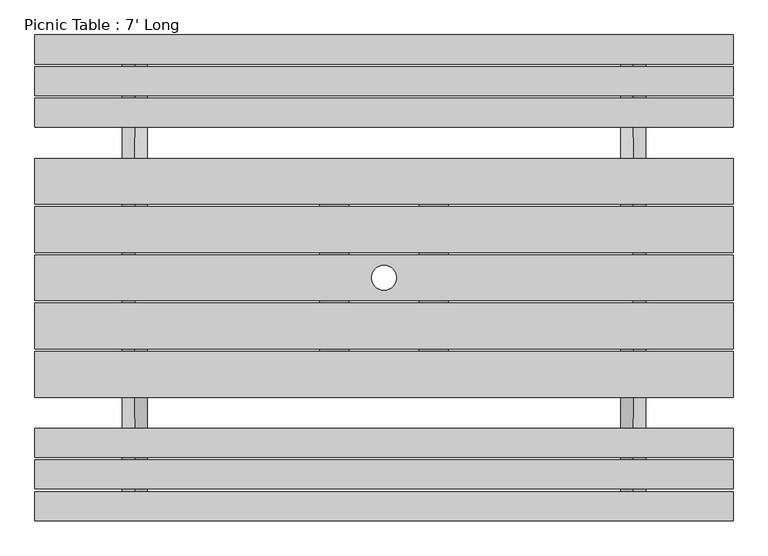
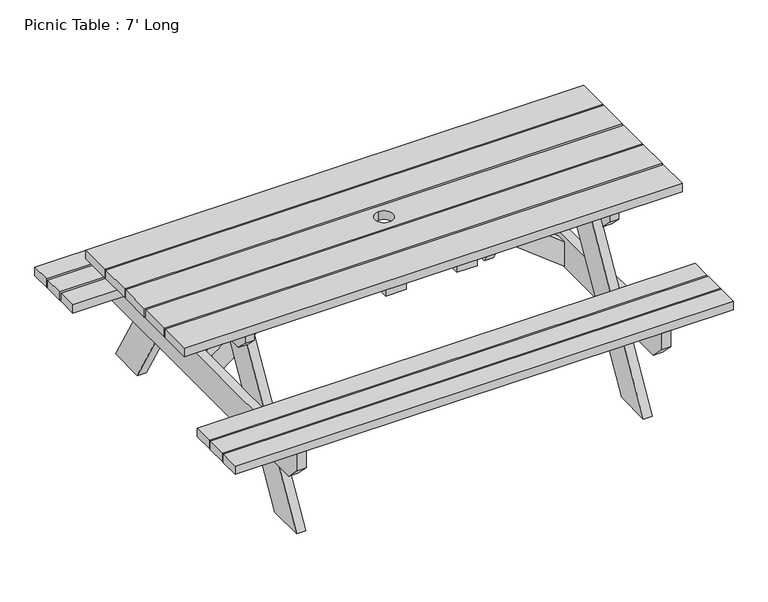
"""IFC4 building model written with IfcOpenShell, lengths in millimetres: furniture geometry, Picnic Table : 7' Long."""

import ifcopenshell
import ifcopenshell.guid

model = None  # the IFC model being written
_history = None  # IfcOwnerHistory: only IFC2X3 demands one
_inside = {}  # id of a spatial element -> (the spatial element, [elements in it])
_under = {}  # id of a project, library or spatial element -> (it, [spatial elements below it])
_declared = {}  # id of a project -> (the project, [libraries it declares])
_typed = {}  # id of a type object -> (the type object, [elements of that type])
_made_of = {}  # id of a material, layer set ... -> (it, [elements and type objects made of it])


def new_model(schema):
    """Start an empty IFC model of exactly this schema.

    Asked for "IFC4X3", IfcOpenShell would pick the latest addendum, in which some entities
    have other attributes; the version numbers below select the first issue.
    IFC2X3 requires an IfcOwnerHistory on every rooted entity: one is made here for all.
    """
    global model, _history
    if schema == "IFC4X3":
        model = ifcopenshell.file(schema_version=(4, 3, 0, 0))
    else:
        model = ifcopenshell.file(schema=schema)
    _inside.clear()
    _under.clear()
    _declared.clear()
    _typed.clear()
    _made_of.clear()
    _history = None
    if model.schema == "IFC2X3":
        org = make("IfcOrganization", Name="unknown")
        user = make(
            "IfcPersonAndOrganization",
            ThePerson=make("IfcPerson", FamilyName="unknown"),
            TheOrganization=org,
        )
        app = make(
            "IfcApplication",
            ApplicationDeveloper=org,
            Version="unknown",
            ApplicationFullName="unknown",
            ApplicationIdentifier="unknown",
        )
        _history = make(
            "IfcOwnerHistory",
            OwningUser=user,
            OwningApplication=app,
            ChangeAction="ADDED",
            CreationDate=0,
        )
    return model


def make(cls, **values):
    """One entity of the class cls with the attributes given. An attribute that is None is left unset."""
    return model.create_entity(
        cls, **{name: value for name, value in values.items() if value is not None}
    )


def rooted(cls, **values):
    """An entity with a GlobalId (a new one), such as an element, a storey or a relation."""
    return make(cls, GlobalId=ifcopenshell.guid.new(), OwnerHistory=_history, **values)


def si_unit(unit_type, name, prefix=None):
    """IfcSIUnit, for example si_unit("LENGTHUNIT", "METRE", prefix="MILLI")."""
    return make("IfcSIUnit", UnitType=unit_type, Prefix=prefix, Name=name)


def assignment(units):
    """IfcUnitAssignment: the units of a project."""
    return None if units is None else make("IfcUnitAssignment", Units=units)


def point(xyz):
    """IfcCartesianPoint."""
    return None if xyz is None else make("IfcCartesianPoint", Coordinates=xyz)


def direction(xyz):
    """IfcDirection."""
    return None if xyz is None else make("IfcDirection", DirectionRatios=xyz)


def frame(location, z_axis=None, x_axis=None):
    """IfcAxis2Placement3D, a coordinate frame: its origin and axes. An axis left out is left unset."""
    return make(
        "IfcAxis2Placement3D",
        Location=point(location),
        Axis=direction(z_axis),
        RefDirection=direction(x_axis),
    )


def frame_2d(location, x_axis=None):
    """IfcAxis2Placement2D, a coordinate frame in the plane: its origin and x axis."""
    return make(
        "IfcAxis2Placement2D", Location=point(location), RefDirection=direction(x_axis)
    )


def origin():
    """The frame at (0, 0, 0) with its axes left unset."""
    return frame((0.0, 0.0, 0.0))


def origin_2d():
    """The frame at (0, 0) in the plane with its x axis left unset."""
    return frame_2d((0.0, 0.0))


def place(relative_to, where):
    """IfcLocalPlacement: puts the frame where relative to a parent placement (None: the world)."""
    return make(
        "IfcLocalPlacement", PlacementRelTo=relative_to, RelativePlacement=where
    )


def context(
    kind, dimensions, precision=None, world=None, true_north=None, identifier=None
):
    """IfcGeometricRepresentationContext, for example the 3D "Model" context."""
    return make(
        "IfcGeometricRepresentationContext",
        ContextIdentifier=identifier,
        ContextType=kind,
        CoordinateSpaceDimension=dimensions,
        Precision=precision,
        WorldCoordinateSystem=world,
        TrueNorth=true_north,
    )


def project(units=None, contexts=None):
    """IfcProject with its units and contexts."""
    return rooted(
        "IfcProject",
        Name="project",
        RepresentationContexts=contexts,
        UnitsInContext=assignment(units),
    )


def spatial(cls, under=None, at=None, **own):
    """A site, building, storey or space (cls), placed at a placement, below another one or the project."""
    s = rooted(cls, ObjectPlacement=at, **own)
    if under is not None:
        _under.setdefault(under.id(), (under, []))[1].append(s)
    return s


def polyline(points):
    """IfcPolyline through the points."""
    return make("IfcPolyline", Points=[point(p) for p in points])


def circle_curve(where, radius):
    """IfcCircle in the frame where."""
    return make("IfcCircle", Position=where, Radius=radius)


def trimmed(basis, trim1, trim2, sense, master):
    """IfcTrimmedCurve: the piece of a basis curve between two trims."""
    return make(
        "IfcTrimmedCurve",
        BasisCurve=basis,
        Trim1=trim1,
        Trim2=trim2,
        SenseAgreement=sense,
        MasterRepresentation=master,
    )


def segment(curve, same_sense, transition):
    """IfcCompositeCurveSegment."""
    return make(
        "IfcCompositeCurveSegment",
        Transition=transition,
        SameSense=same_sense,
        ParentCurve=curve,
    )


def composite_curve(segments, self_intersect=None):
    """IfcCompositeCurve: segments joined end to end."""
    return make("IfcCompositeCurve", Segments=segments, SelfIntersect=self_intersect)


def outline(outer, holes=None, kind="AREA"):
    """IfcArbitraryClosedProfileDef: a profile drawn as a closed curve; with holes, ...WithVoids."""
    if holes is None:
        return make("IfcArbitraryClosedProfileDef", ProfileType=kind, OuterCurve=outer)
    return make(
        "IfcArbitraryProfileDefWithVoids",
        ProfileType=kind,
        OuterCurve=outer,
        InnerCurves=holes,
    )


def extrude(swept, where, along, depth):
    """IfcExtrudedAreaSolid: the profile swept, set in the frame where, extruded along a direction by depth."""
    return make(
        "IfcExtrudedAreaSolid",
        SweptArea=swept,
        Position=where,
        ExtrudedDirection=direction(along),
        Depth=depth,
    )


def shape(context_of_items, identifier, shape_type, items):
    """IfcShapeRepresentation: the items that make up one representation, for example the "Body"."""
    return make(
        "IfcShapeRepresentation",
        ContextOfItems=context_of_items,
        RepresentationIdentifier=identifier,
        RepresentationType=shape_type,
        Items=items,
    )


def source(mapping_origin, context_of_items, identifier, shape_type, items):
    """IfcRepresentationMap: a shape defined once, which mapped items show again and again."""
    return make(
        "IfcRepresentationMap",
        MappingOrigin=mapping_origin,
        MappedRepresentation=shape(context_of_items, identifier, shape_type, items),
    )


def transform(
    local_origin,
    x_axis=None,
    y_axis=None,
    z_axis=None,
    scale=None,
    scale2=None,
    scale3=None,
    uniform=True,
):
    """IfcCartesianTransformationOperator3D, or its non-uniform kind. x_axis, y_axis, z_axis: its Axis1, 2, 3."""
    if uniform:
        return make(
            "IfcCartesianTransformationOperator3D",
            Axis1=direction(x_axis),
            Axis2=direction(y_axis),
            LocalOrigin=point(local_origin),
            Scale=scale,
            Axis3=direction(z_axis),
        )
    return make(
        "IfcCartesianTransformationOperator3DnonUniform",
        Axis1=direction(x_axis),
        Axis2=direction(y_axis),
        LocalOrigin=point(local_origin),
        Scale=scale,
        Axis3=direction(z_axis),
        Scale2=scale2,
        Scale3=scale3,
    )


def mapped(mapping_source, mapping_target):
    """IfcMappedItem: shows the shape of a source again, moved by a transform."""
    return make(
        "IfcMappedItem", MappingSource=mapping_source, MappingTarget=mapping_target
    )


def made_of(thing, what):
    """Note that an element or type object is made of a material, layer set ...; save() writes the relation."""
    if what is not None:
        _made_of.setdefault(what.id(), (what, []))[1].append(thing)
    return thing


def element(
    cls,
    number,
    at=None,
    inside=None,
    cuts=None,
    type_object=None,
    material=None,
    context=None,
    identifier="Body",
    shape_type=None,
    held_by="IfcProductDefinitionShape",
    body=None,
    shapes=None,
    **own,
):
    """One element of the class cls, such as IfcWall. Its Tag is "e" and its number.

    at: its placement. inside: the storey or other place that contains it. cuts: it is an
    opening in that element (IfcRelVoidsElement). A single representation is given by context,
    identifier, shape_type and body (its items); several are given by shapes. held_by: the class
    of the entity that holds the representations. save() writes the other relations.
    """
    e = rooted(cls, Tag="e%d" % number, ObjectPlacement=at, **own)
    if body is not None:
        shapes = [shape(context, identifier, shape_type, body)]
    if shapes is not None:
        e.Representation = make(held_by, Representations=shapes)
    if inside is not None:
        _inside.setdefault(inside.id(), (inside, []))[1].append(e)
    if cuts is not None:
        rooted(
            "IfcRelVoidsElement", RelatingBuildingElement=cuts, RelatedOpeningElement=e
        )
    if type_object is not None:
        _typed.setdefault(type_object.id(), (type_object, []))[1].append(e)
    return made_of(e, material)


def aggregate(whole, parts):
    """IfcRelAggregates: a whole, such as a stair, and the parts it consists of."""
    return rooted("IfcRelAggregates", RelatingObject=whole, RelatedObjects=parts)


def save(model, path):
    """Write the relations noted so far, then the file.

    IfcRelAggregates (storeys below a building ...), IfcRelContainedInSpatialStructure (elements
    in a storey), IfcRelDefinesByType, IfcRelAssociatesMaterial and IfcRelDeclares: one each for
    every whole, place, type object, material and project.
    """
    for whole, parts in _under.values():
        aggregate(whole, parts)
    for where, things in _inside.values():
        rooted(
            "IfcRelContainedInSpatialStructure",
            RelatedElements=things,
            RelatingStructure=where,
        )
    for kind, things in _typed.values():
        rooted("IfcRelDefinesByType", RelatedObjects=things, RelatingType=kind)
    for what, things in _made_of.values():
        rooted("IfcRelAssociatesMaterial", RelatedObjects=things, RelatingMaterial=what)
    for by, libraries in _declared.values():
        rooted("IfcRelDeclares", RelatingContext=by, RelatedDefinitions=libraries)
    model.write(path)


def picnic_table_7_long_e703f63e(model_context):
    return source(origin(), model_context, "Body", "SweptSolid", [
        extrude(outline(polyline([(1066.8, 742.95), (1066.8, 654.05), (-1066.8, 654.05), (-1066.8, 742.95), (1066.8, 742.95)])), frame((0.0, 0.0, 419.1), z_axis=(0.0, 0.0, 1.0), x_axis=(1.0, 0.0, 0.0)), (0.0, 0.0, 1.0), 38.1),
        extrude(outline(polyline([(1066.8, 646.1125), (1066.8, 557.2125), (-1066.8, 557.2125), (-1066.8, 646.1125), (1066.8, 646.1125)])), frame((0.0, 0.0, 419.1), z_axis=(0.0, 0.0, 1.0), x_axis=(1.0, 0.0, 0.0)), (0.0, 0.0, 1.0), 38.1),
        extrude(outline(polyline([(1066.8, 549.275), (1066.8, 460.375), (-1066.8, 460.375), (-1066.8, 549.275), (1066.8, 549.275)])), frame((0.0, 0.0, 419.1), z_axis=(0.0, 0.0, 1.0), x_axis=(1.0, 0.0, 0.0)), (0.0, 0.0, 1.0), 38.1),
        extrude(outline(polyline([(1066.8, -654.05), (1066.8, -742.95), (-1066.8, -742.95), (-1066.8, -654.05), (1066.8, -654.05)])), frame((0.0, 0.0, 419.1), z_axis=(0.0, 0.0, 1.0), x_axis=(1.0, 0.0, 0.0)), (0.0, 0.0, 1.0), 38.1),
        extrude(outline(polyline([(1066.8, -557.2125), (1066.8, -646.1125), (-1066.8, -646.1125), (-1066.8, -557.2125), (1066.8, -557.2125)])), frame((0.0, 0.0, 419.1), z_axis=(0.0, 0.0, 1.0), x_axis=(1.0, 0.0, 0.0)), (0.0, 0.0, 1.0), 38.1),
        extrude(outline(polyline([(1066.8, -460.375), (1066.8, -549.275), (-1066.8, -549.275), (-1066.8, -460.375), (1066.8, -460.375)])), frame((0.0, 0.0, 419.1), z_axis=(0.0, 0.0, 1.0), x_axis=(1.0, 0.0, 0.0)), (0.0, 0.0, 1.0), 38.1),
        extrude(outline(polyline([(-92.6883348, 723.9), (-510.6321947, 0.0), (-671.9438599, 0.0), (-254.0, 723.9), (-92.6883348, 723.9)])), frame((-762.0, 0.0, 0.0), z_axis=(1.0, 0.0, 0.0), x_axis=(0.0, 1.0, 0.0)), (0.0, 0.0, 1.0), 38.1),
        extrude(outline(polyline([(-355.6, 723.9), (355.6, 723.9), (355.6, 685.8), (304.8, 635.0), (-304.8, 635.0), (-355.6, 685.8), (-355.6, 723.9)])), frame((-800.1, 0.0, 0.0), z_axis=(1.0, 0.0, 0.0), x_axis=(0.0, 1.0, 0.0)), (0.0, 0.0, 1.0), 38.1),
        extrude(outline(polyline([(-742.95, 419.1), (742.95, 419.1), (742.95, 342.9), (679.45, 279.4), (-679.45, 279.4), (-742.95, 342.9), (-742.95, 419.1)])), frame((-800.1, 0.0, 0.0), z_axis=(1.0, 0.0, 0.0), x_axis=(0.0, 1.0, 0.0)), (0.0, 0.0, 1.0), 38.1),
        extrude(outline(polyline([(92.6883348, 723.9), (254.0, 723.9), (671.9438599, 0.0), (510.6321947, 0.0), (92.6883348, 723.9)])), frame((-762.0, 0.0, 0.0), z_axis=(1.0, 0.0, 0.0), x_axis=(0.0, 1.0, 0.0)), (0.0, 0.0, 1.0), 38.1),
        extrude(outline(polyline([(-92.6883348, 723.9), (-510.6321947, 0.0), (-671.9438599, 0.0), (-254.0, 723.9), (-92.6883348, 723.9)])), frame((723.9, 0.0, 0.0), z_axis=(1.0, 0.0, 0.0), x_axis=(0.0, 1.0, 0.0)), (0.0, 0.0, 1.0), 38.1),
        extrude(outline(polyline([(-355.6, 723.9), (355.6, 723.9), (355.6, 685.8), (304.8, 635.0), (-304.8, 635.0), (-355.6, 685.8), (-355.6, 723.9)])), frame((762.0, 0.0, 0.0), z_axis=(1.0, 0.0, 0.0), x_axis=(0.0, 1.0, 0.0)), (0.0, 0.0, 1.0), 38.1),
        extrude(outline(polyline([(-742.95, 419.1), (742.95, 419.1), (742.95, 342.9), (679.45, 279.4), (-679.45, 279.4), (-742.95, 342.9), (-742.95, 419.1)])), frame((762.0, 0.0, 0.0), z_axis=(1.0, 0.0, 0.0), x_axis=(0.0, 1.0, 0.0)), (0.0, 0.0, 1.0), 38.1),
        extrude(outline(polyline([(92.6883348, 723.9), (254.0, 723.9), (671.9438599, 0.0), (510.6321947, 0.0), (92.6883348, 723.9)])), frame((723.9, 0.0, 0.0), z_axis=(1.0, 0.0, 0.0), x_axis=(0.0, 1.0, 0.0)), (0.0, 0.0, 1.0), 38.1),
        extrude(outline(polyline([(723.9, 196.5628837), (282.1321084, 762.0), (394.9478277, 762.0), (723.9, 340.9604197), (723.9, 196.5628837)])), frame((0.0, -19.05, 0.0), z_axis=(0.0, 1.0, 0.0), x_axis=(0.0, 0.0, 1.0)), (0.0, 0.0, 1.0), 38.1),
        extrude(outline(polyline([(723.9, -196.5628837), (723.9, -340.9604197), (394.9478277, -762.0), (282.1321084, -762.0), (723.9, -196.5628837)])), frame((0.0, -19.05, 0.0), z_axis=(0.0, 1.0, 0.0), x_axis=(0.0, 0.0, 1.0)), (0.0, 0.0, 1.0), 38.1),
        extrude(outline(polyline([(1066.8, 365.125), (1066.8, 225.425), (-1066.8, 225.425), (-1066.8, 365.125), (1066.8, 365.125)])), frame((0.0, 0.0, 723.9), z_axis=(0.0, 0.0, 1.0), x_axis=(1.0, 0.0, 0.0)), (0.0, 0.0, 1.0), 38.1),
        extrude(outline(polyline([(1066.8, 69.85), (1066.8, -69.85), (-1066.8, -69.85), (-1066.8, 69.85), (1066.8, 69.85)]), holes=[composite_curve([segment(trimmed(circle_curve(origin_2d(), 38.1), [point((0.0, -38.1))], [point((0.0, 38.1))], True, "CARTESIAN"), True, "CONTINUOUS"), segment(trimmed(circle_curve(origin_2d(), 38.1), [point((0.0, 38.1))], [point((0.0, -38.1))], True, "CARTESIAN"), True, "CONTINUOUS")], self_intersect=False)]), frame((0.0, 0.0, 723.9), z_axis=(0.0, 0.0, 1.0), x_axis=(1.0, 0.0, 0.0)), (0.0, 0.0, 1.0), 38.1),
        extrude(outline(polyline([(1066.8, -225.425), (1066.8, -365.125), (-1066.8, -365.125), (-1066.8, -225.425), (1066.8, -225.425)])), frame((0.0, 0.0, 723.9), z_axis=(0.0, 0.0, 1.0), x_axis=(1.0, 0.0, 0.0)), (0.0, 0.0, 1.0), 38.1),
        extrude(outline(polyline([(1066.8, 217.4875), (1066.8, 77.7875), (-1066.8, 77.7875), (-1066.8, 217.4875), (1066.8, 217.4875)])), frame((0.0, 0.0, 723.9), z_axis=(0.0, 0.0, 1.0), x_axis=(1.0, 0.0, 0.0)), (0.0, 0.0, 1.0), 38.1),
        extrude(outline(polyline([(1066.8, -77.7875), (1066.8, -217.4875), (-1066.8, -217.4875), (-1066.8, -77.7875), (1066.8, -77.7875)])), frame((0.0, 0.0, 723.9), z_axis=(0.0, 0.0, 1.0), x_axis=(1.0, 0.0, 0.0)), (0.0, 0.0, 1.0), 38.1),
        extrude(outline(polyline([(-107.6628837, -352.425), (-196.5628837, -352.425), (-196.5628837, 352.425), (-107.6628837, 352.425), (-107.6628837, -352.425)])), frame((0.0, 0.0, 685.8), z_axis=(0.0, 0.0, 1.0), x_axis=(1.0, 0.0, 0.0)), (0.0, 0.0, 1.0), 38.1),
        extrude(outline(polyline([(196.5628837, -352.425), (107.6628837, -352.425), (107.6628837, 352.425), (196.5628837, 352.425), (196.5628837, -352.425)])), frame((0.0, 0.0, 685.8), z_axis=(0.0, 0.0, 1.0), x_axis=(1.0, 0.0, 0.0)), (0.0, 0.0, 1.0), 38.1),
    ])


if __name__ == "__main__":
    model = new_model("IFC4")
    model_context = context("Model", 3, world=origin())
    ifc_project = project(units=[si_unit("LENGTHUNIT", "METRE", prefix="MILLI")], contexts=[model_context])
    site = spatial("IfcSite", under=ifc_project)
    building = spatial("IfcBuilding", under=site)
    placement = place(None, origin())
    picnic_table_7_long_shape = picnic_table_7_long_e703f63e(model_context)
    element("IfcFurniture", 1, ObjectType="Picnic Table : 7' Long", at=placement, inside=building, context=model_context, shape_type="MappedRepresentation", body=[
        mapped(picnic_table_7_long_shape, transform((0.0, 0.0, 0.0), x_axis=(1.0, 0.0, 0.0), y_axis=(0.0, 1.0, 0.0), z_axis=(0.0, 0.0, 1.0))),
    ])
    save(model, "model.ifc")
